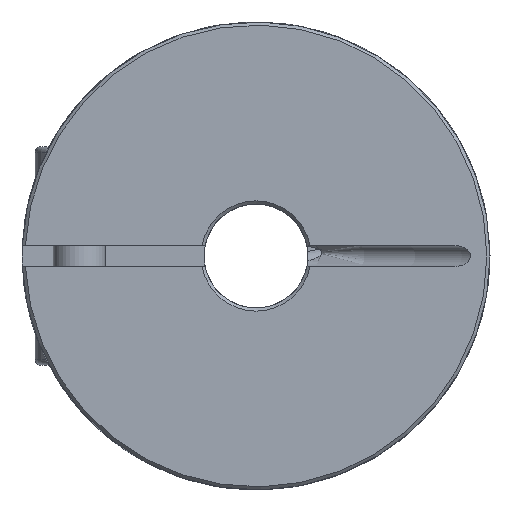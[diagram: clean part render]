
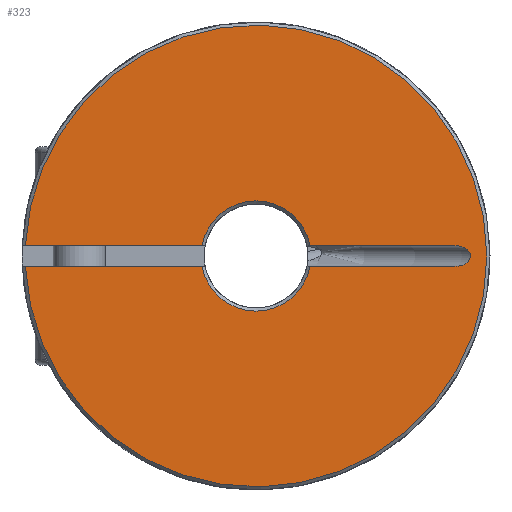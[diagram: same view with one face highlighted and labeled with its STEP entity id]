
A CAD part, left-side view. The second image highlights one B-rep face of the part: STEP entity #323.
In plain terms, the highlighted planar face has unit normal (-1, 0, 0).
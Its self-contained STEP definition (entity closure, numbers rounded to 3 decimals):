
#323 = ADVANCED_FACE( 'NONE', ( #749 ), #750, .F. );
#749 = FACE_OUTER_BOUND( '', #1423, .T. );
#750 = PLANE( '', #1424 );
#1423 = EDGE_LOOP( '', ( #2598, #2599, #2600, #2601, #2602, #2603, #2604, #2605 ) );
#1424 = AXIS2_PLACEMENT_3D( '', #2606, #2607, #2608 );
#2598 = ORIENTED_EDGE( '', *, *, #4010, .F. );
#2599 = ORIENTED_EDGE( '', *, *, #4011, .T. );
#2600 = ORIENTED_EDGE( '', *, *, #4012, .T. );
#2601 = ORIENTED_EDGE( '', *, *, #4013, .T. );
#2602 = ORIENTED_EDGE( '', *, *, #4014, .T. );
#2603 = ORIENTED_EDGE( '', *, *, #4015, .T. );
#2604 = ORIENTED_EDGE( '', *, *, #4016, .F. );
#2605 = ORIENTED_EDGE( '', *, *, #4017, .T. );
#2606 = CARTESIAN_POINT( '', ( 0., 5., 0. ) );
#2607 = DIRECTION( '', ( 1., 0., 0. ) );
#2608 = DIRECTION( '', ( 0., 1., 0. ) );
#4010 = EDGE_CURVE( 'NONE', #4589, #4590, #4591, .F. );
#4011 = EDGE_CURVE( 'NONE', #4589, #4592, #4593, .T. );
#4012 = EDGE_CURVE( 'NONE', #4592, #4594, #4595, .T. );
#4013 = EDGE_CURVE( 'NONE', #4594, #4596, #4597, .T. );
#4014 = EDGE_CURVE( 'NONE', #4596, #4598, #4599, .T. );
#4015 = EDGE_CURVE( 'NONE', #4598, #4600, #4601, .F. );
#4016 = EDGE_CURVE( 'NONE', #4602, #4600, #4603, .F. );
#4017 = EDGE_CURVE( 'NONE', #4602, #4590, #4604, .T. );
#4589 = VERTEX_POINT( 'NONE', #5377 );
#4590 = VERTEX_POINT( 'NONE', #5378 );
#4591 = LINE( '', #5379, #5380 );
#4592 = VERTEX_POINT( 'NONE', #5381 );
#4593 = B_SPLINE_CURVE_WITH_KNOTS( '', 3, ( #5382, #5383, #5384, #5385, #5386, #5387, #5388, #5389, #5390, #5391, #5392, #5393, #5394, #5395, #5396, #5397, #5398, #5399 ), .UNSPECIFIED., .F., .F., ( 4, 2, 2, 2, 2, 2, 2, 2, 4 ), ( 0., 0., 0.001, 0.001, 0.002, 0.002, 0.003, 0.003, 0.004 ), .UNSPECIFIED. );
#4594 = VERTEX_POINT( 'NONE', #5400 );
#4595 = LINE( '', #5401, #5402 );
#4596 = VERTEX_POINT( 'NONE', #5403 );
#4597 = CIRCLE( '', #5404, 5.3 );
#4598 = VERTEX_POINT( 'NONE', #5405 );
#4599 = LINE( '', #5406, #5407 );
#4600 = VERTEX_POINT( 'NONE', #5408 );
#4601 = CIRCLE( '', #5409, 22.2 );
#4602 = VERTEX_POINT( 'NONE', #5410 );
#4603 = LINE( '', #5411, #5412 );
#4604 = CIRCLE( '', #5413, 5.3 );
#5377 = CARTESIAN_POINT( '', ( 0., -1., -19.125 ) );
#5378 = CARTESIAN_POINT( '', ( 0., -1., -5.205 ) );
#5379 = CARTESIAN_POINT( '', ( 0., -1., 13. ) );
#5380 = VECTOR( '', #6679, 1000. );
#5381 = CARTESIAN_POINT( '', ( 0., 1., -19.125 ) );
#5382 = CARTESIAN_POINT( '', ( 0., -1., -19.125 ) );
#5383 = CARTESIAN_POINT( '', ( 0., -1., -19.291 ) );
#5384 = CARTESIAN_POINT( '', ( 0., -0.983, -19.455 ) );
#5385 = CARTESIAN_POINT( '', ( 0., -0.91, -19.775 ) );
#5386 = CARTESIAN_POINT( '', ( 0., -0.854, -19.934 ) );
#5387 = CARTESIAN_POINT( '', ( 0., -0.697, -20.225 ) );
#5388 = CARTESIAN_POINT( '', ( 0., -0.593, -20.36 ) );
#5389 = CARTESIAN_POINT( '', ( 0., -0.33, -20.564 ) );
#5390 = CARTESIAN_POINT( '', ( 0., -0.169, -20.63 ) );
#5391 = CARTESIAN_POINT( '', ( 0., 0.168, -20.63 ) );
#5392 = CARTESIAN_POINT( '', ( 0., 0.328, -20.566 ) );
#5393 = CARTESIAN_POINT( '', ( 0., 0.592, -20.361 ) );
#5394 = CARTESIAN_POINT( '', ( 0., 0.695, -20.227 ) );
#5395 = CARTESIAN_POINT( '', ( 0., 0.854, -19.936 ) );
#5396 = CARTESIAN_POINT( '', ( 0., 0.909, -19.78 ) );
#5397 = CARTESIAN_POINT( '', ( 0., 0.983, -19.456 ) );
#5398 = CARTESIAN_POINT( '', ( 0., 1., -19.291 ) );
#5399 = CARTESIAN_POINT( '', ( 0., 1., -19.125 ) );
#5400 = CARTESIAN_POINT( '', ( 0., 1., -5.205 ) );
#5401 = CARTESIAN_POINT( '', ( 0., 1., 0. ) );
#5402 = VECTOR( '', #6680, 1000. );
#5403 = CARTESIAN_POINT( '', ( 0., 1., 5.205 ) );
#5404 = AXIS2_PLACEMENT_3D( '', #6681, #6682, #6683 );
#5405 = CARTESIAN_POINT( '', ( 0., 1., 22.177 ) );
#5406 = CARTESIAN_POINT( '', ( 0., 1., 0. ) );
#5407 = VECTOR( '', #6684, 1000. );
#5408 = CARTESIAN_POINT( '', ( 0., -1., 22.177 ) );
#5409 = AXIS2_PLACEMENT_3D( '', #6685, #6686, #6687 );
#5410 = CARTESIAN_POINT( '', ( 0., -1., 5.205 ) );
#5411 = CARTESIAN_POINT( '', ( 0., -1., 13. ) );
#5412 = VECTOR( '', #6688, 1000. );
#5413 = AXIS2_PLACEMENT_3D( '', #6689, #6690, #6691 );
#6679 = DIRECTION( '', ( 0., 0., -1. ) );
#6680 = DIRECTION( '', ( 0., 0., 1. ) );
#6681 = CARTESIAN_POINT( '', ( 0., 0., 0. ) );
#6682 = DIRECTION( '', ( 1., 0., 0. ) );
#6683 = DIRECTION( '', ( 0., 0., -1. ) );
#6684 = DIRECTION( '', ( 0., 0., 1. ) );
#6685 = CARTESIAN_POINT( '', ( 0., 0., 0. ) );
#6686 = DIRECTION( '', ( 1., 0., 0. ) );
#6687 = DIRECTION( '', ( 0., 0., -1. ) );
#6688 = DIRECTION( '', ( 0., 0., -1. ) );
#6689 = CARTESIAN_POINT( '', ( 0., 0., 0. ) );
#6690 = DIRECTION( '', ( 1., 0., 0. ) );
#6691 = DIRECTION( '', ( 0., 0., -1. ) );
